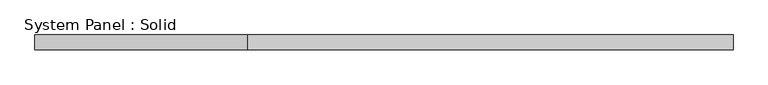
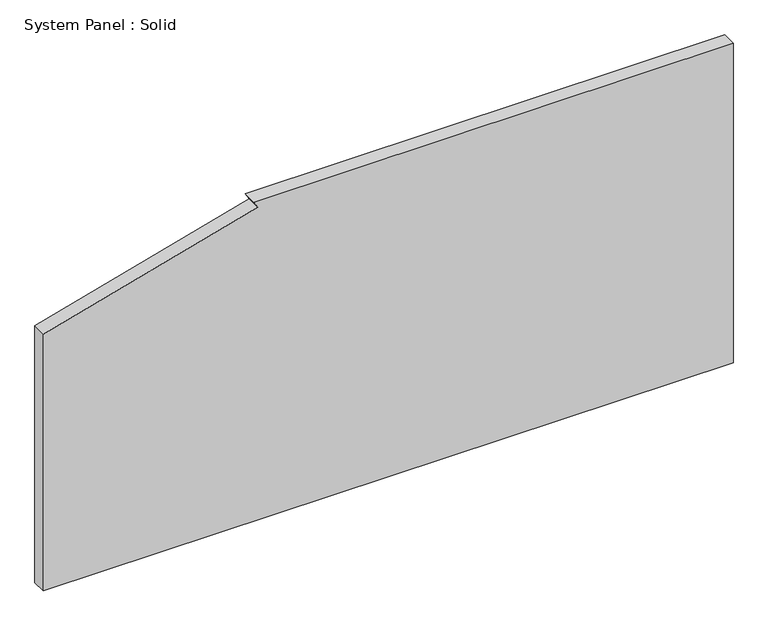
"""IFC4 building model written with IfcOpenShell, lengths in millimetres: plate geometry, System Panel : Solid."""

from ifc_helpers import new_model, si_unit, frame, origin, place, context, project, spatial, polyline, outline, extrude, source, transform, mapped, element, save


def system_panel_solid_765c229f(model_context):
    return source(origin(), model_context, "Body", "SweptSolid", [
        extrude(outline(polyline([(0.0, -1492.25), (0.0, 1492.25), (1460.5, 1492.25), (1460.5, -581.875003), (1431.0362328, -564.989367), (1175.2541404, -1492.25), (0.0, -1492.25)])), frame((0.0, -19.05, 0.0), z_axis=(0.0, 1.0, 0.0), x_axis=(0.0, 0.0, 1.0)), (0.0, 0.0, 1.0), 63.5),
    ])


if __name__ == "__main__":
    model = new_model("IFC4")
    model_context = context("Model", 3, world=origin())
    ifc_project = project(units=[si_unit("LENGTHUNIT", "METRE", prefix="MILLI")], contexts=[model_context])
    site = spatial("IfcSite", under=ifc_project)
    building = spatial("IfcBuilding", under=site)
    placement = place(None, origin())
    system_panel_solid_shape = system_panel_solid_765c229f(model_context)
    element("IfcPlate", 1, ObjectType="System Panel : Solid", at=placement, inside=building, context=model_context, shape_type="MappedRepresentation", body=[
        mapped(system_panel_solid_shape, transform((0.0, 0.0, 0.0), x_axis=(1.0, 0.0, 0.0), y_axis=(0.0, 1.0, 0.0), z_axis=(0.0, 0.0, 1.0))),
    ])
    save(model, "model.ifc")
